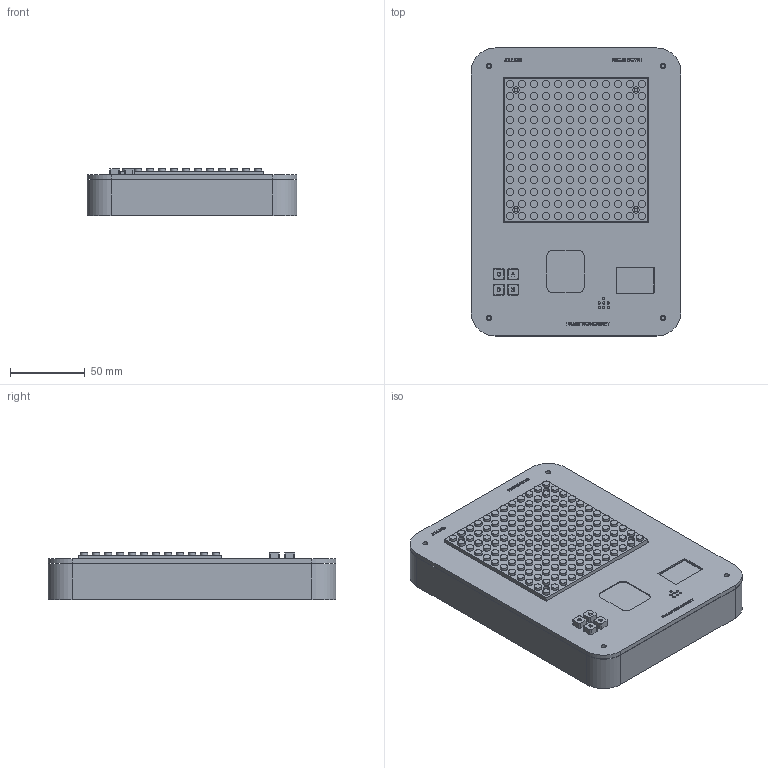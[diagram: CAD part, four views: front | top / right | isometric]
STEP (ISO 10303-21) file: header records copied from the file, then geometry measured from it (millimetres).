
FILE_DESCRIPTION(('Open CASCADE Model'),'2;1');
FILE_NAME('Open CASCADE Shape Model','2026-11-14T12:36:29',('Author'),( 'Open CASCADE'),'Open CASCADE STEP processor 7.9','Open CASCADE 7.9' ,'Unknown');
FILE_SCHEMA(('AUTOMOTIVE_DESIGN { 1 0 10303 214 1 1 1 1 }'));
Length unit declared in the file: millimetre
Products named in the file (16): Jelling_DRAFT_NOT_FOR_FABRICATION; 01_base_DRAFT; 03_LEGO_12x12_plate_DRAFT; button_A_SW2_DRAFT; button_B_SW3_DRAFT; button_C_SW5_DRAFT; button_D_SW6_DRAFT; 02_lid_DRAFT; REFERENCE_nRF54L15_DK_bare_PCB; REFERENCE_SW6_nominal_envelope; REFERENCE_SW5_nominal_envelope; REFERENCE_SW2_nominal_envelope; REFERENCE_SW3_nominal_envelope; REFERENCE_OLED_PCB_MEASURED_STACK; REFERENCE_OLED_panel; REFERENCE_HW508_APPROXIMATE_XY_ONLY
Assembly tree (15 placements, depth 2):
  Jelling_DRAFT_NOT_FOR_FABRICATION
    01_base_DRAFT
    03_LEGO_12x12_plate_DRAFT
    button_A_SW2_DRAFT
    button_B_SW3_DRAFT
    button_C_SW5_DRAFT
    button_D_SW6_DRAFT
    02_lid_DRAFT
    REFERENCE_nRF54L15_DK_bare_PCB
    REFERENCE_SW6_nominal_envelope
    REFERENCE_SW5_nominal_envelope
    REFERENCE_SW2_nominal_envelope
    REFERENCE_SW3_nominal_envelope
    REFERENCE_OLED_PCB_MEASURED_STACK
    REFERENCE_OLED_panel
    REFERENCE_HW508_APPROXIMATE_XY_ONLY
Bounding box: 140 x 192 x 31.45 mm (x, y, z)
Volume: 222208.7 mm3; surface area: 186396.2 mm2
Topology: 14 solids, 15 shells, 1406 faces, 3444 edges, 2298 vertices
Faces by surface type: plane 709, extrusion 374, cylinder 323
Full cylindrical faces by diameter (mm): 1.6 x10, 2.2 x3, 2.4 x8, 2.5 x8, 2.8 x4, 3.2 x6, 3.4 x4, 4.2 x4, 4.8 x144, 5 x3, 6 x4
Entity records: 92028 total; most frequent: CARTESIAN_POINT 25372, DIRECTION 10679, ORIENTED_EDGE 6882, PCURVE 6882, DEFINITIONAL_REPRESENTATION 6882, VECTOR 6752, LINE 6378, EDGE_CURVE 3444
